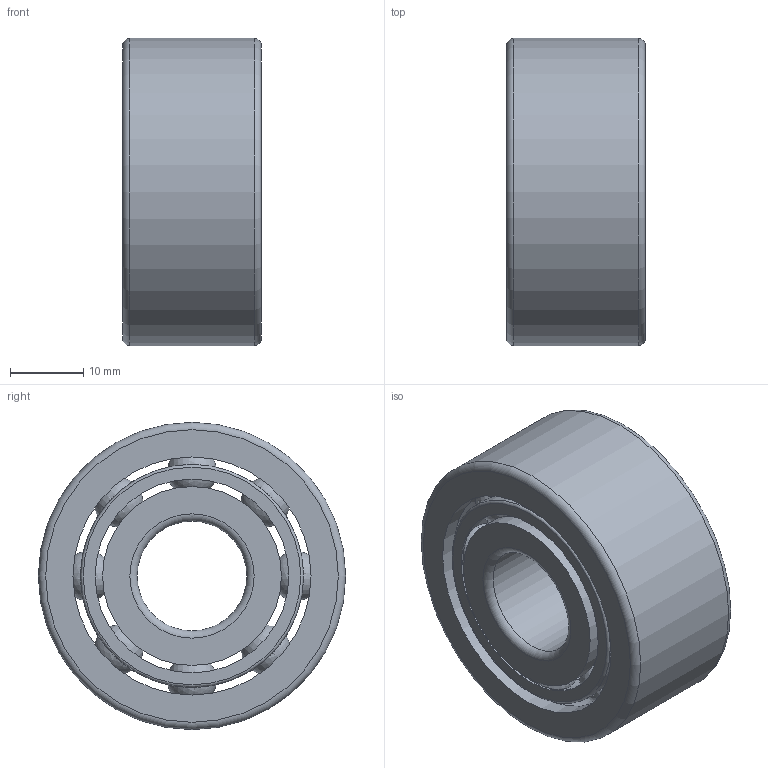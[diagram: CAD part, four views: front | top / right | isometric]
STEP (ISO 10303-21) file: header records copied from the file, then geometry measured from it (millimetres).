
FILE_DESCRIPTION(/* description */ (''),/* implementation_level */ '2;1');
FILE_NAME(/* name */ 'D:\moje\parametrické\32--,33--\33--\33--\3302.stp',/* time_stamp */ '2016-03-17T11:18:07+01:00',/* author */ ('OUBALASKO'),/* organization */ (''),/* preprocessor_version */ 'ST-DEVELOPER v15.2',/* originating_system */ 'Autodesk Inventor 2014',/* authorisation */ '');
FILE_SCHEMA (('AUTOMOTIVE_DESIGN { 1 0 10303 214 3 1 1 }'));
Length unit declared in the file: millimetre
Products named in the file (5): 3302-02; 3302-ball; 3302-cage; 3302-01; 3302
Bounding box: 19 x 42 x 42 mm (x, y, z)
Volume: 17054.8 mm3; surface area: 13115.3 mm2
Topology: 20 solids, 20 shells, 82 faces, 206 edges, 132 vertices
Faces by surface type: sphere 32, plane 24, cylinder 14, torus 12
Full cylindrical faces by diameter (mm): 15 x1, 24.452 x3, 26.476 x2, 29.849 x2, 30.449 x2, 32.548 x3, 42 x1
Entity records: 1806 total; most frequent: CARTESIAN_POINT 684, DIRECTION 256, ORIENTED_EDGE 150, AXIS2_PLACEMENT_3D 128, EDGE_CURVE 75, EDGE_LOOP 71, VERTEX_POINT 60, CIRCLE 59
